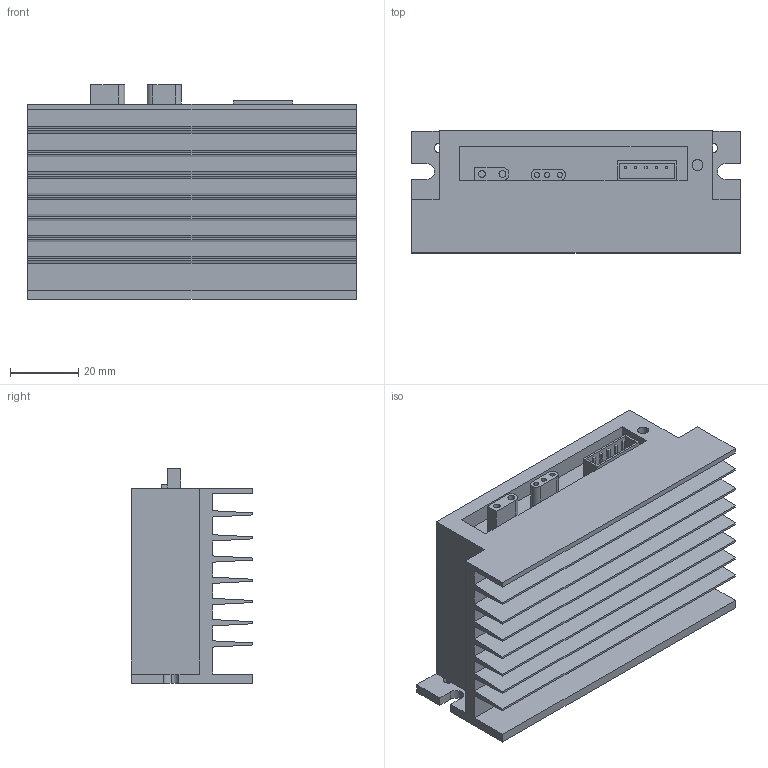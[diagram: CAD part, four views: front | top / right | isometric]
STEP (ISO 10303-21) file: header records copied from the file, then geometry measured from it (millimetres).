
FILE_DESCRIPTION (( 'STEP AP214' ), '1' );
FILE_NAME ('24V-350W.STEP', '2025-02-12T01:29:13', ( '' ), ( '' ), 'SwSTEP 2.0', 'SolidWorks 2022', '' );
FILE_SCHEMA (( 'AUTOMOTIVE_DESIGN' ));
Length unit declared in the file: millimetre
Products named in the file (1): 24V-350W
Bounding box: 96 x 35.6 x 62.7 mm (x, y, z)
Volume: 124736.8 mm3; surface area: 39852.7 mm2
Topology: 1 solids, 1 shells, 139 faces, 368 edges, 242 vertices
Faces by surface type: plane 116, cylinder 23
Entity records: 4418 total; most frequent: CARTESIAN_POINT 759, ORIENTED_EDGE 736, DIRECTION 695, EDGE_CURVE 368, LINE 315, VECTOR 315, VERTEX_POINT 242, AXIS2_PLACEMENT_3D 190
